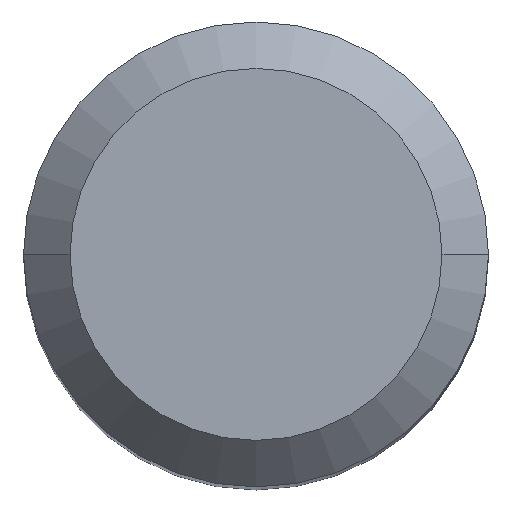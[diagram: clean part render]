
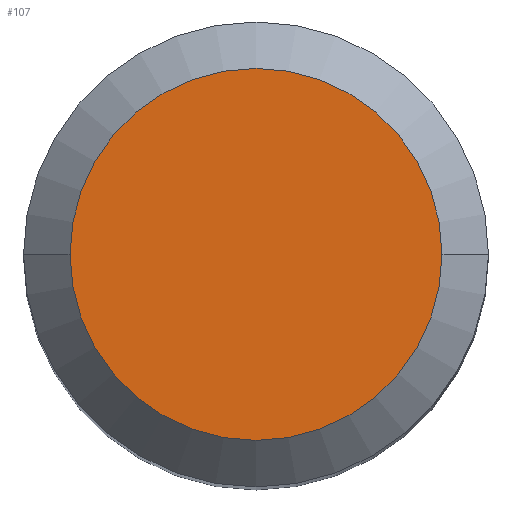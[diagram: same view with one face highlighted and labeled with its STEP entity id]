
A CAD part, top view. The second image highlights one B-rep face of the part: STEP entity #107.
In plain terms, the highlighted planar face has unit normal (0, 0, 1).
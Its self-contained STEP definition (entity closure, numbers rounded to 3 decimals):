
#67 = CIRCLE ( 'NONE', #450, 4.8 ) ;
#84 = CARTESIAN_POINT ( 'NONE',  ( 0., 0., 0. ) ) ;
#100 = EDGE_LOOP ( 'NONE', ( #471, #468 ) ) ;
#107 = ADVANCED_FACE ( 'NONE', ( #123 ), #251, .T. ) ;
#123 = FACE_OUTER_BOUND ( 'NONE', #100, .T. ) ;
#130 = CARTESIAN_POINT ( 'NONE',  ( -4.8, 0., 0. ) ) ;
#150 = AXIS2_PLACEMENT_3D ( 'NONE', #84, #462, #329 ) ;
#178 = DIRECTION ( 'NONE',  ( 0., 0., -1. ) ) ;
#185 = EDGE_CURVE ( 'NONE', #219, #224, #253, .T. ) ;
#219 = VERTEX_POINT ( 'NONE', #130 ) ;
#224 = VERTEX_POINT ( 'NONE', #288 ) ;
#251 = PLANE ( 'NONE',  #347 ) ;
#253 = CIRCLE ( 'NONE', #150, 4.8 ) ;
#288 = CARTESIAN_POINT ( 'NONE',  ( 4.8, 0., 0. ) ) ;
#308 = CARTESIAN_POINT ( 'NONE',  ( 0., 0., 0. ) ) ;
#329 = DIRECTION ( 'NONE',  ( -1., 0., 0. ) ) ;
#335 = EDGE_CURVE ( 'NONE', #224, #219, #67, .T. ) ;
#347 = AXIS2_PLACEMENT_3D ( 'NONE', #378, #453, #451 ) ;
#378 = CARTESIAN_POINT ( 'NONE',  ( 0., 4.8, 0. ) ) ;
#384 = DIRECTION ( 'NONE',  ( -1., 0., 0. ) ) ;
#450 = AXIS2_PLACEMENT_3D ( 'NONE', #308, #178, #384 ) ;
#451 = DIRECTION ( 'NONE',  ( 1., 0., 0. ) ) ;
#453 = DIRECTION ( 'NONE',  ( 0., 0., 1. ) ) ;
#462 = DIRECTION ( 'NONE',  ( 0., 0., -1. ) ) ;
#468 = ORIENTED_EDGE ( 'NONE', *, *, #335, .F. ) ;
#471 = ORIENTED_EDGE ( 'NONE', *, *, #185, .F. ) ;
